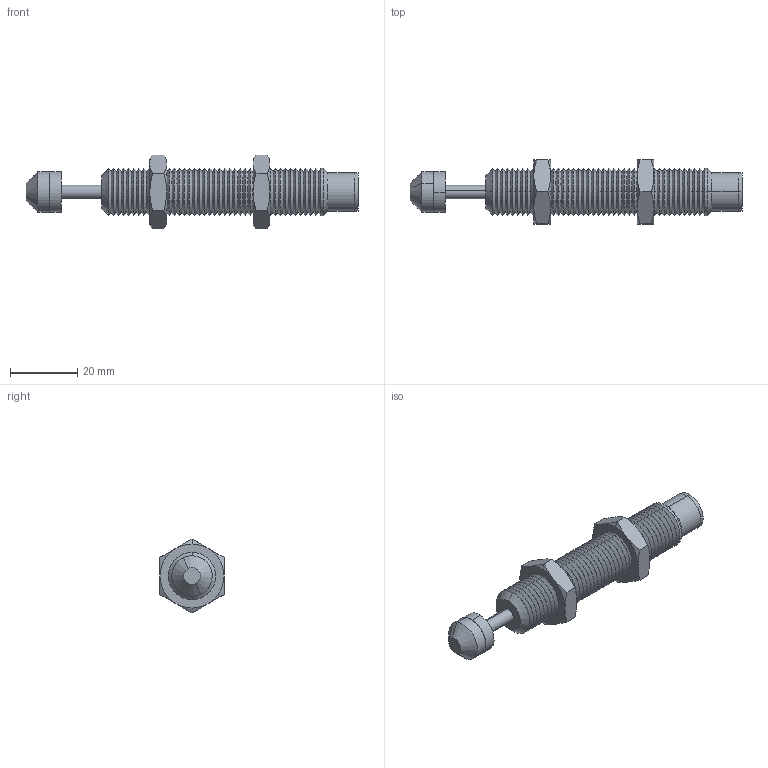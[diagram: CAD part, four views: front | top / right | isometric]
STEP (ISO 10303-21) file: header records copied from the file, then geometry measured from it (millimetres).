
FILE_DESCRIPTION (( 'STEP AP203' ), '1' );
FILE_NAME ('68002.W0142.step', '2017-02-27T15:51:47', ( 'User' ), ( '' ), 'SwSTEP 2.0', 'SolidWorks 2009', '' );
FILE_SCHEMA (( 'CONFIG_CONTROL_DESIGN' ));
Length unit declared in the file: millimetre
Products named in the file (8): 68002.W0142; Part1_68002.W0142; Part3_68002.W0142; Part4_68002.W0142; Part2_68002.W0142; Part6_68002.W0142; Part5_68002.W0142; Part7_68002.W0142
Assembly tree (8 placements, depth 2):
  68002.W0142
    Part3_68002.W0142
    Part4_68002.W0142
    Part2_68002.W0142
    Part5_68002.W0142
    Part1_68002.W0142
    Part7_68002.W0142
    Part6_68002.W0142  x2
Bounding box: 98.5 x 19 x 21.94 mm (x, y, z)
Volume: 12075.2 mm3; surface area: 9564.4 mm2
Topology: 8 solids, 8 shells, 275 faces, 556 edges, 300 vertices
Faces by surface type: cone 204, plane 43, cylinder 26, torus 2
Entity records: 7356 total; most frequent: DIRECTION 1252, CARTESIAN_POINT 1180, ORIENTED_EDGE 1008, AXIS2_PLACEMENT_3D 510, EDGE_CURVE 504, VERTEX_POINT 270, EDGE_LOOP 262, FACE_OUTER_BOUND 251
